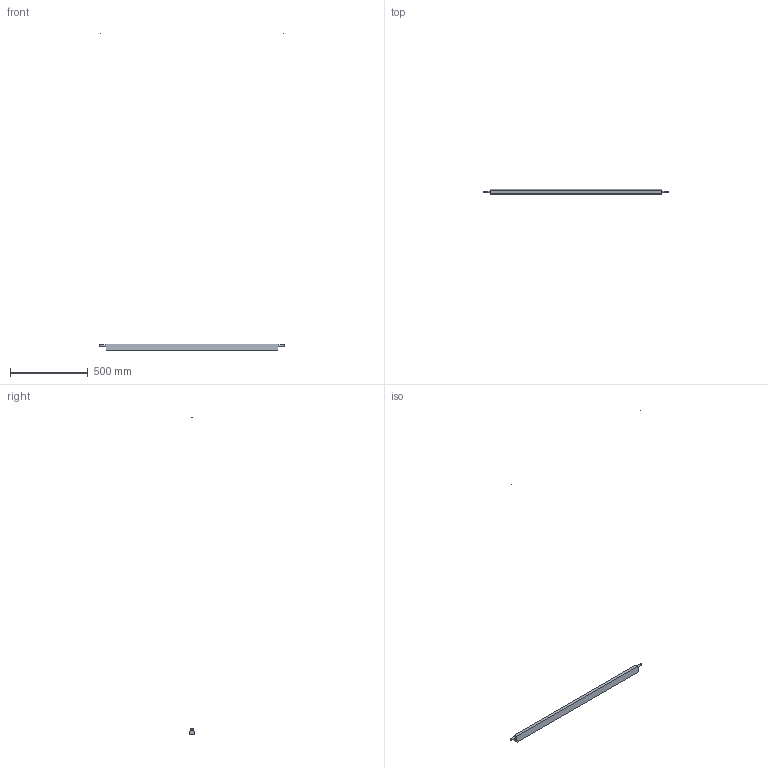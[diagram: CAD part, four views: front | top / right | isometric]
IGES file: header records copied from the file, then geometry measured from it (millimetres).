
Global section: file name: /Users/064_p/Desktop/ILKW_PINOCCHIO120_Pendant_3D.igs; native system: Rhinoceros ( Jul  7 2025 ); preprocessor: Trout Lake IGES 012 Jul  7 2025; date: 260828.070541; units: millimetre
Bounding box: 1188 x 35 x 2036.1 mm (x, y, z)
Surface area: 172405.6 mm2 (no closed solid volume)
Topology: 0 solids, 0 shells, 18 faces, 68 edges, 64 vertices
Faces by surface type: bspline 18
